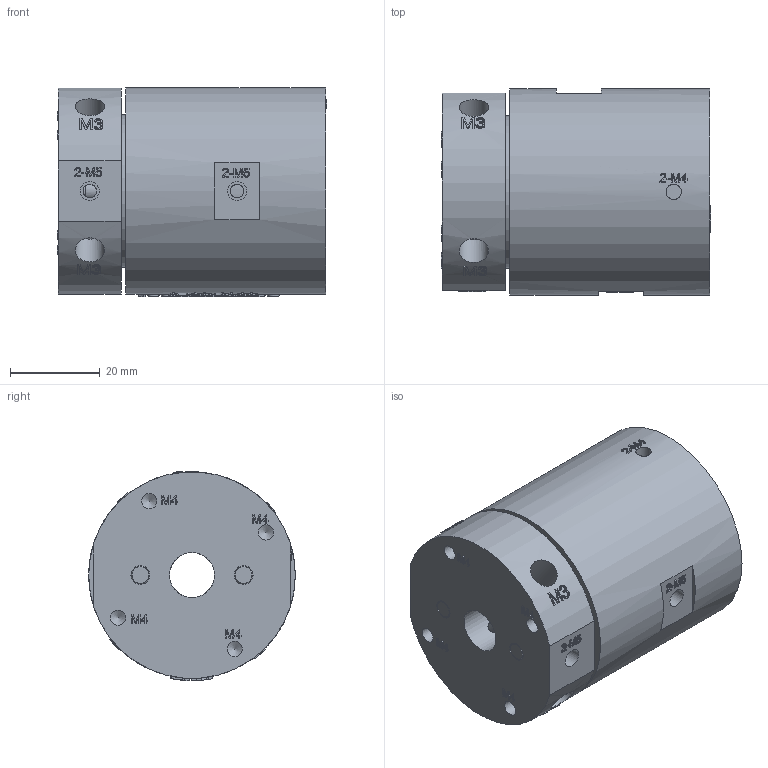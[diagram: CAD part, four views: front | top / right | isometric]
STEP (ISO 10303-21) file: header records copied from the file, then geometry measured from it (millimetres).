
FILE_DESCRIPTION(/* description */ (''),/* implementation_level */ '2;1');
FILE_NAME(/* name */ 'HQ02005-D10.stp',/* time_stamp */ '2025-09-05T10:37:49+08:00',/* author */ (''),/* organization */ (''),/* preprocessor_version */ 'ST-DEVELOPER v16.7',/* originating_system */ 'SIEMENS PLM Software NX 12.0',/* authorisation */ '');
FILE_SCHEMA (('AUTOMOTIVE_DESIGN { 1 0 10303 214 3 1 1 1 }'));
Products named in the file (1): Admi30D0F0663bj0
Bounding box: 59.9 x 46 x 46.6 mm (x, y, z)
Volume: 88041.4 mm3; surface area: 19389 mm2
Topology: 1 solids, 3 shells, 1005 faces, 2706 edges, 1806 vertices
Faces by surface type: plane 525, extrusion 339, cylinder 68, bspline 60, cone 13
Full cylindrical faces by diameter (mm): 1.5 x2, 2.5 x10, 3 x4, 3.4 x6, 4.1 x2, 4.2 x8, 6.5 x4, 10 x1, 24 x1, 25 x1, 34 x1, 37 x1, 46 x1
Entity records: 45032 total; most frequent: CARTESIAN_POINT 23426, ORIENTED_EDGE 5212, DIRECTION 2771, EDGE_CURVE 2606, B_SPLINE_CURVE_WITH_KNOTS 2040, VERTEX_POINT 1783, EDGE_LOOP 1185, ADVANCED_FACE 1005
